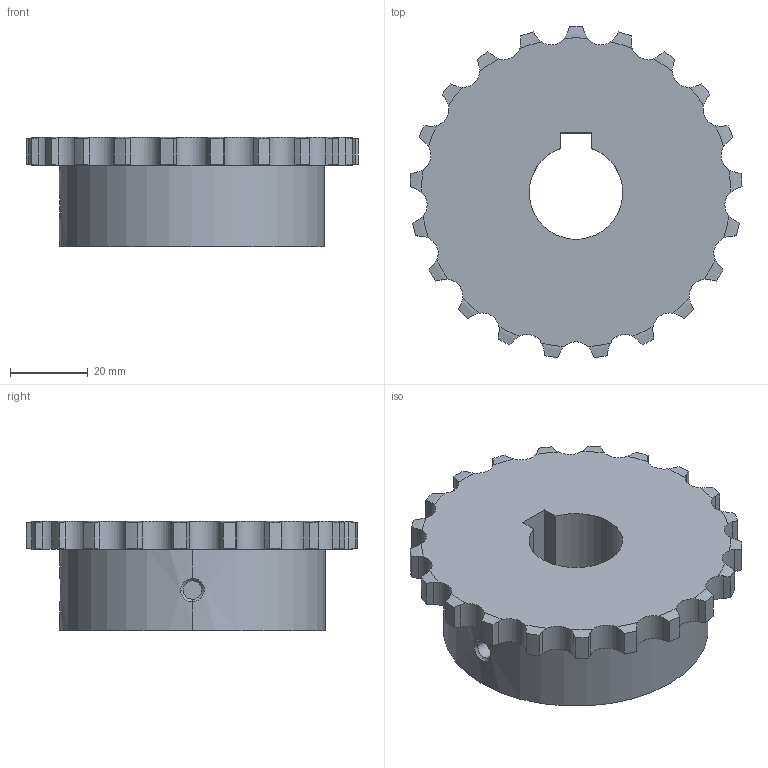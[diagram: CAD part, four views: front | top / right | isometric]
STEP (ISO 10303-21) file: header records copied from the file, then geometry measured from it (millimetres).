
FILE_DESCRIPTION((''),'2;1');
FILE_NAME('510-201-2421_PRT','2021-02-13T',('Brieden'),('Brieden'),'PRO/ENGINEER BY PARAMETRIC TECHNOLOGY CORPORATION, 2010160','PRO/ENGINEER BY PARAMETRIC TECHNOLOGY CORPORATION, 2010160','');
FILE_SCHEMA(('AUTOMOTIVE_DESIGN { 1 0 10303 214 1 1 1 1 }'));
Length unit declared in the file: millimetre
Products named in the file (1): 510-201-2421_PRT
Bounding box: 85.17 x 84.96 x 28 mm (x, y, z)
Volume: 98236.5 mm3; surface area: 18838 mm2
Topology: 1 solids, 1 shells, 147 faces, 423 edges, 280 vertices
Faces by surface type: cylinder 91, torus 42, plane 8, bspline 6
Entity records: 7131 total; most frequent: CARTESIAN_POINT 2174, ORIENTED_EDGE 846, DIRECTION 661, PRESENTATION_STYLE_ASSIGNMENT 424, STYLED_ITEM 424, CURVE_STYLE 423, EDGE_CURVE 423, VERTEX_POINT 280
